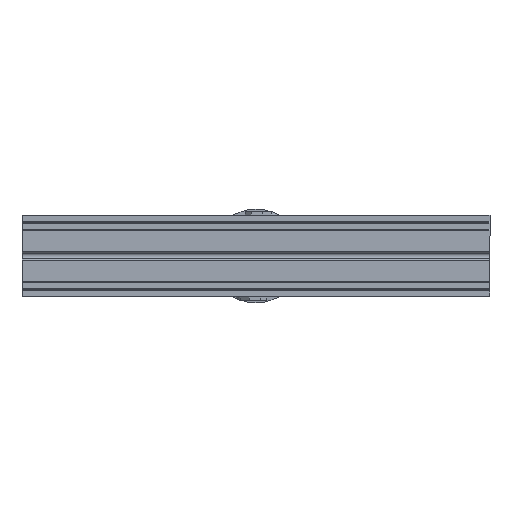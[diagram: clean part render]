
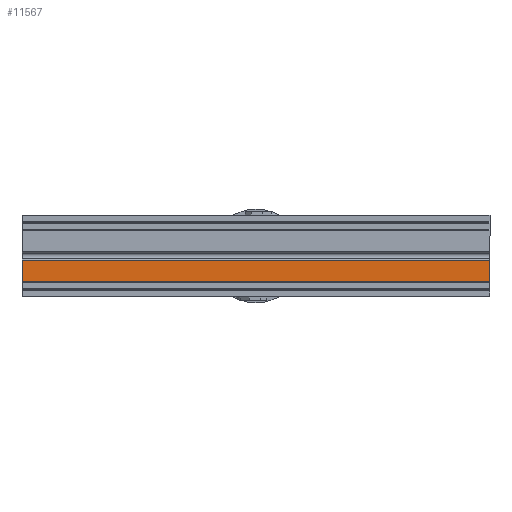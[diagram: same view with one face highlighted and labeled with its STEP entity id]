
A CAD part, front view. The second image highlights one B-rep face of the part: STEP entity #11567.
In plain terms, the highlighted planar face has unit normal (0, -1, 0).
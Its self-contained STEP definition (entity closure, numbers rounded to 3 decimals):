
#1011 = CARTESIAN_POINT ( 'NONE',  ( 2.018, -40., -200. ) ) ;
#1553 = EDGE_LOOP ( 'NONE', ( #24806, #2409, #22976, #13074 ) ) ;
#1787 = VERTEX_POINT ( 'NONE', #4527 ) ;
#2409 = ORIENTED_EDGE ( 'NONE', *, *, #16380, .F. ) ;
#2778 = LINE ( 'NONE', #21342, #21670 ) ;
#3052 = VECTOR ( 'NONE', #16392, 1000. ) ;
#3183 = DIRECTION ( 'NONE',  ( 0., 0., -1. ) ) ;
#3411 = VERTEX_POINT ( 'NONE', #6644 ) ;
#4527 = CARTESIAN_POINT ( 'NONE',  ( 2.018, -40., 0. ) ) ;
#6644 = CARTESIAN_POINT ( 'NONE',  ( 11.1, -40., 0. ) ) ;
#7703 = CARTESIAN_POINT ( 'NONE',  ( 2.018, -40., 0. ) ) ;
#7898 = VECTOR ( 'NONE', #17350, 1000. ) ;
#8068 = EDGE_CURVE ( 'NONE', #1787, #22322, #9065, .T. ) ;
#8230 = LINE ( 'NONE', #7703, #3052 ) ;
#8503 = AXIS2_PLACEMENT_3D ( 'NONE', #8731, #24467, #24738 ) ;
#8731 = CARTESIAN_POINT ( 'NONE',  ( 2.018, -40., 0. ) ) ;
#9065 = LINE ( 'NONE', #15087, #7898 ) ;
#11108 = VECTOR ( 'NONE', #23053, 1000. ) ;
#11567 = ADVANCED_FACE ( 'NONE', ( #20624 ), #20750, .F. ) ;
#13074 = ORIENTED_EDGE ( 'NONE', *, *, #21324, .T. ) ;
#14670 = CARTESIAN_POINT ( 'NONE',  ( 2.018, -40., -200. ) ) ;
#15087 = CARTESIAN_POINT ( 'NONE',  ( 2.018, -40., 0. ) ) ;
#16380 = EDGE_CURVE ( 'NONE', #1787, #3411, #8230, .T. ) ;
#16392 = DIRECTION ( 'NONE',  ( 1., 0., 0. ) ) ;
#17350 = DIRECTION ( 'NONE',  ( 0., 0., -1. ) ) ;
#17761 = VERTEX_POINT ( 'NONE', #21560 ) ;
#20624 = FACE_OUTER_BOUND ( 'NONE', #1553, .T. ) ;
#20750 = PLANE ( 'NONE',  #8503 ) ;
#21324 = EDGE_CURVE ( 'NONE', #22322, #17761, #24778, .T. ) ;
#21342 = CARTESIAN_POINT ( 'NONE',  ( 11.1, -40., 0. ) ) ;
#21560 = CARTESIAN_POINT ( 'NONE',  ( 11.1, -40., -200. ) ) ;
#21670 = VECTOR ( 'NONE', #3183, 1000. ) ;
#22026 = EDGE_CURVE ( 'NONE', #3411, #17761, #2778, .T. ) ;
#22322 = VERTEX_POINT ( 'NONE', #14670 ) ;
#22976 = ORIENTED_EDGE ( 'NONE', *, *, #8068, .T. ) ;
#23053 = DIRECTION ( 'NONE',  ( 1., 0., 0. ) ) ;
#24467 = DIRECTION ( 'NONE',  ( 0., 1., 0. ) ) ;
#24738 = DIRECTION ( 'NONE',  ( 0., 0., 1. ) ) ;
#24778 = LINE ( 'NONE', #1011, #11108 ) ;
#24806 = ORIENTED_EDGE ( 'NONE', *, *, #22026, .F. ) ;
